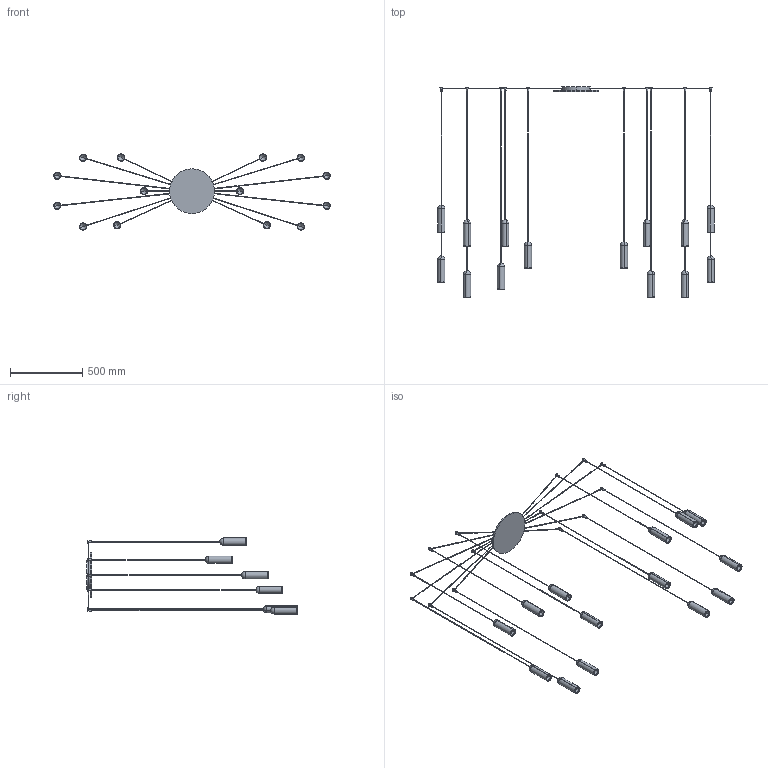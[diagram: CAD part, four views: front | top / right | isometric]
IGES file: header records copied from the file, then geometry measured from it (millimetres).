
Start section: SolidWorks IGES file using analytic representation for surfaces
Global section: file name: Y:\eforma\TECNICO\SOLIDWORKS\E-FORMA\09-LAMPADE\NANUM\02 parts\NANB5-00-NANUM_14_B sospensione.IGS; native system: SolidWorks 2022; preprocessor: SolidWorks 2022; author: eforma.tech; date: 250505.164231; units: millimetre
Bounding box: 1911.91 x 1454.5 x 526.9 mm (x, y, z)
Volume: 2822852.6 mm3; surface area: 1339838.1 mm2
Topology: 42 solids, 42 shells, 533 faces, 1047 edges, 599 vertices
Faces by surface type: revolution 424, plane 109
